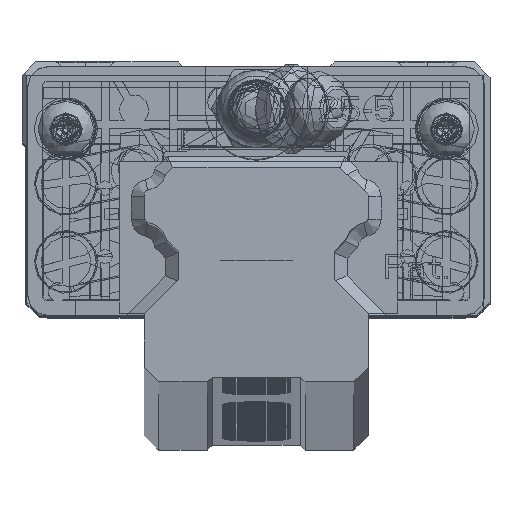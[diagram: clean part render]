
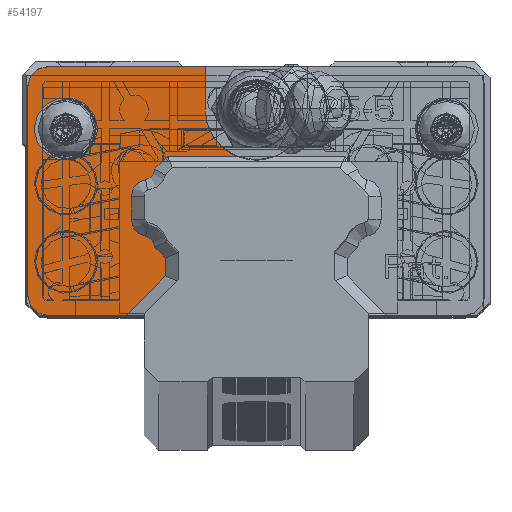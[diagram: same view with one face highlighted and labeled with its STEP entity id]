
A CAD part, top view. The second image highlights one B-rep face of the part: STEP entity #54197.
In plain terms, the highlighted planar face has unit normal (0, 0, 1).
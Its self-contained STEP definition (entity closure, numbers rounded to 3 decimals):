
#3481=DIRECTION('',(1.,0.,0.));
#3482=VECTOR('',#3481,7.076);
#3483=CARTESIAN_POINT('',(-9.086,5.3,31.25));
#3484=LINE('',#3483,#3482);
#4059=CARTESIAN_POINT('',(-11.567,4.067,31.25));
#4060=DIRECTION('',(0.,0.,-1.));
#4061=DIRECTION('',(0.998,-0.064,0.));
#4062=AXIS2_PLACEMENT_3D('',#4059,#4060,#4061);
#4064=CARTESIAN_POINT('',(-11.,1.145,31.25));
#4065=DIRECTION('',(0.,0.,1.));
#4066=DIRECTION('',(-0.191,0.982,0.));
#4067=AXIS2_PLACEMENT_3D('',#4064,#4065,#4066);
#4069=CARTESIAN_POINT('',(-11.,-1.145,
31.25));
#4070=DIRECTION('',(0.,0.,1.));
#4071=DIRECTION('',(-1.,0.,0.));
#4072=AXIS2_PLACEMENT_3D('',#4069,#4070,#4071);
#4074=CARTESIAN_POINT('',(-11.567,-4.067,
31.25));
#4075=DIRECTION('',(0.,0.,-1.));
#4076=DIRECTION('',(0.191,0.982,0.));
#4077=AXIS2_PLACEMENT_3D('',#4074,#4075,#4076);
#4079=DIRECTION('',(0.707,-0.707,0.));
#4080=VECTOR('',#4079,1.543);
#4081=CARTESIAN_POINT('',(-10.391,-4.047,
31.25));
#4082=LINE('',#4081,#4080);
#4083=DIRECTION('',(-1.,0.,0.));
#4084=VECTOR('',#4083,8.062);
#4085=CARTESIAN_POINT('',(-13.338,-11.,31.25));
#4086=LINE('',#4085,#4084);
#4087=CARTESIAN_POINT('',(-21.4,-9.,
31.25));
#4088=DIRECTION('',(0.,0.,-1.));
#4089=DIRECTION('',(0.,-1.,0.));
#4090=AXIS2_PLACEMENT_3D('',#4087,#4088,#4089);
#4092=DIRECTION('',(0.,1.,0.));
#4093=VECTOR('',#4092,21.5);
#4094=CARTESIAN_POINT('',(-23.4,-9.,
31.25));
#4095=LINE('',#4094,#4093);
#4096=CARTESIAN_POINT('',(-21.4,12.5,31.25));
#4097=DIRECTION('',(0.,0.,-1.));
#4098=DIRECTION('',(-1.,0.,0.));
#4099=AXIS2_PLACEMENT_3D('',#4096,#4097,#4098);
#4101=DIRECTION('',(1.,0.,0.));
#4102=VECTOR('',#4101,16.15);
#4103=CARTESIAN_POINT('',(-21.4,14.5,31.25));
#4104=LINE('',#4103,#4102);
#4105=CARTESIAN_POINT('',(0.,10.15,31.25));
#4106=DIRECTION('',(0.,0.,1.));
#4107=DIRECTION('',(-1.,0.,0.));
#4108=AXIS2_PLACEMENT_3D('',#4105,#4106,#4107);
#4110=CARTESIAN_POINT('',(-19.5,8.1,31.25));
#4111=DIRECTION('',(0.,0.,1.));
#4112=DIRECTION('',(-1.,0.,0.));
#4113=AXIS2_PLACEMENT_3D('',#4110,#4111,#4112);
#4115=CARTESIAN_POINT('',(-19.5,8.1,31.25));
#4116=DIRECTION('',(0.,0.,1.));
#4117=DIRECTION('',(1.,0.,0.));
#4118=AXIS2_PLACEMENT_3D('',#4115,#4116,#4117);
#4128=DIRECTION('',(0.707,0.707,0.));
#4129=VECTOR('',#4128,1.849);
#4130=CARTESIAN_POINT('',(-10.393,3.992,31.25));
#4131=LINE('',#4130,#4129);
#4177=DIRECTION('',(0.,1.,0.));
#4178=VECTOR('',#4177,2.291);
#4179=CARTESIAN_POINT('',(-12.8,-1.145,
31.25));
#4180=LINE('',#4179,#4178);
#4212=CARTESIAN_POINT('',(-10.391,-4.047,
31.25));
#4234=DIRECTION('',(0.,1.,0.));
#4235=VECTOR('',#4234,1.823);
#4236=CARTESIAN_POINT('',(-9.3,-6.962,
31.25));
#4237=LINE('',#4236,#4235);
#4254=DIRECTION('',(0.707,0.707,0.));
#4255=VECTOR('',#4254,5.711);
#4256=CARTESIAN_POINT('',(-13.338,-11.,31.25));
#4257=LINE('',#4256,#4255);
#4266=DIRECTION('',(0.,1.,0.));
#4267=VECTOR('',#4266,4.35);
#4268=CARTESIAN_POINT('',(-5.25,10.15,31.25));
#4269=LINE('',#4268,#4267);
#48776=CARTESIAN_POINT('',(-21.4,-11.,31.25));
#48777=VERTEX_POINT('',#48776);
#48778=CARTESIAN_POINT('',(-13.338,-11.,31.25));
#48779=VERTEX_POINT('',#48778);
#48782=CARTESIAN_POINT('',(-23.4,-9.,
31.25));
#48783=VERTEX_POINT('',#48782);
#48784=CARTESIAN_POINT('',(-23.4,12.5,
31.25));
#48785=VERTEX_POINT('',#48784);
#48786=CARTESIAN_POINT('',(-21.4,14.5,31.25));
#48787=VERTEX_POINT('',#48786);
#48796=CARTESIAN_POINT('',(-5.25,14.5,31.25));
#48797=VERTEX_POINT('',#48796);
#48844=CARTESIAN_POINT('',(-9.3,-5.138,
31.25));
#48845=VERTEX_POINT('',#48844);
#48846=CARTESIAN_POINT('',(-9.3,-6.962,
31.25));
#48847=VERTEX_POINT('',#48846);
#48849=VERTEX_POINT('',#4212);
#48852=CARTESIAN_POINT('',(-11.343,-2.912,
31.25));
#48853=VERTEX_POINT('',#48852);
#48856=CARTESIAN_POINT('',(-12.8,-1.145,
31.25));
#48857=VERTEX_POINT('',#48856);
#48859=CARTESIAN_POINT('',(-12.8,1.145,
31.25));
#48861=VERTEX_POINT('',#48859);
#48863=CARTESIAN_POINT('',(-11.343,2.912,
31.25));
#48865=VERTEX_POINT('',#48863);
#48868=CARTESIAN_POINT('',(-10.393,3.992,
31.25));
#48869=VERTEX_POINT('',#48868);
#48872=CARTESIAN_POINT('',(-9.086,5.3,31.25));
#48873=VERTEX_POINT('',#48872);
#48880=CARTESIAN_POINT('',(-2.01,5.3,31.25));
#48881=VERTEX_POINT('',#48880);
#49288=CARTESIAN_POINT('',(-5.25,10.15,31.25));
#49289=VERTEX_POINT('',#49288);
#49290=CARTESIAN_POINT('',(-22.75,8.1,31.25));
#49291=CARTESIAN_POINT('',(-16.25,8.1,31.25));
#49292=VERTEX_POINT('',#49290);
#49293=VERTEX_POINT('',#49291);
#54157=CARTESIAN_POINT('',(0.,0.,31.25));
#54158=DIRECTION('',(0.,0.,1.));
#54159=DIRECTION('',(1.,0.,0.));
#54160=AXIS2_PLACEMENT_3D('',#54157,#54158,#54159);
#54161=PLANE('',#54160);
#54162=ORIENTED_EDGE('',*,*,#53675,.F.);
#54164=ORIENTED_EDGE('',*,*,#54163,.F.);
#54166=ORIENTED_EDGE('',*,*,#54165,.T.);
#54168=ORIENTED_EDGE('',*,*,#54167,.T.);
#54170=ORIENTED_EDGE('',*,*,#54169,.F.);
#54172=ORIENTED_EDGE('',*,*,#54171,.T.);
#54174=ORIENTED_EDGE('',*,*,#54173,.T.);
#54176=ORIENTED_EDGE('',*,*,#54175,.T.);
#54178=ORIENTED_EDGE('',*,*,#54177,.F.);
#54180=ORIENTED_EDGE('',*,*,#54179,.F.);
#54181=ORIENTED_EDGE('',*,*,#53246,.T.);
#54182=ORIENTED_EDGE('',*,*,#53266,.T.);
#54183=ORIENTED_EDGE('',*,*,#53280,.T.);
#54184=ORIENTED_EDGE('',*,*,#53294,.T.);
#54185=ORIENTED_EDGE('',*,*,#53316,.T.);
#54187=ORIENTED_EDGE('',*,*,#54186,.F.);
#54188=ORIENTED_EDGE('',*,*,#54150,.T.);
#54189=EDGE_LOOP('',(#54162,#54164,#54166,#54168,#54170,#54172,#54174,#54176,
#54178,#54180,#54181,#54182,#54183,#54184,#54185,#54187,#54188));
#54190=FACE_OUTER_BOUND('',#54189,.F.);
#54192=ORIENTED_EDGE('',*,*,#54191,.T.);
#54194=ORIENTED_EDGE('',*,*,#54193,.T.);
#54195=EDGE_LOOP('',(#54192,#54194));
#54196=FACE_BOUND('',#54195,.F.);
#54197=ADVANCED_FACE('',(#54190,#54196),#54161,.T.);
#4063=CIRCLE('',#4062,1.176);
#4068=CIRCLE('',#4067,1.8);
#4073=CIRCLE('',#4072,1.8);
#4078=CIRCLE('',#4077,1.177);
#4091=CIRCLE('',#4090,2.);
#4100=CIRCLE('',#4099,2.);
#4109=CIRCLE('',#4108,5.25);
#4114=CIRCLE('',#4113,3.25);
#4119=CIRCLE('',#4118,3.25);
#53246=EDGE_CURVE('',#48779,#48777,#4086,.T.);
#53266=EDGE_CURVE('',#48777,#48783,#4091,.T.);
#53280=EDGE_CURVE('',#48783,#48785,#4095,.T.);
#53294=EDGE_CURVE('',#48785,#48787,#4100,.T.);
#53316=EDGE_CURVE('',#48787,#48797,#4104,.T.);
#53675=EDGE_CURVE('',#48873,#48881,#3484,.T.);
#54150=EDGE_CURVE('',#49289,#48881,#4109,.T.);
#54163=EDGE_CURVE('',#48869,#48873,#4131,.T.);
#54165=EDGE_CURVE('',#48869,#48865,#4063,.T.);
#54167=EDGE_CURVE('',#48865,#48861,#4068,.T.);
#54169=EDGE_CURVE('',#48857,#48861,#4180,.T.);
#54171=EDGE_CURVE('',#48857,#48853,#4073,.T.);
#54173=EDGE_CURVE('',#48853,#48849,#4078,.T.);
#54175=EDGE_CURVE('',#48849,#48845,#4082,.T.);
#54177=EDGE_CURVE('',#48847,#48845,#4237,.T.);
#54179=EDGE_CURVE('',#48779,#48847,#4257,.T.);
#54186=EDGE_CURVE('',#49289,#48797,#4269,.T.);
#54191=EDGE_CURVE('',#49292,#49293,#4114,.T.);
#54193=EDGE_CURVE('',#49293,#49292,#4119,.T.);
